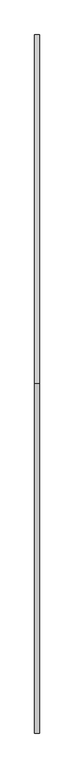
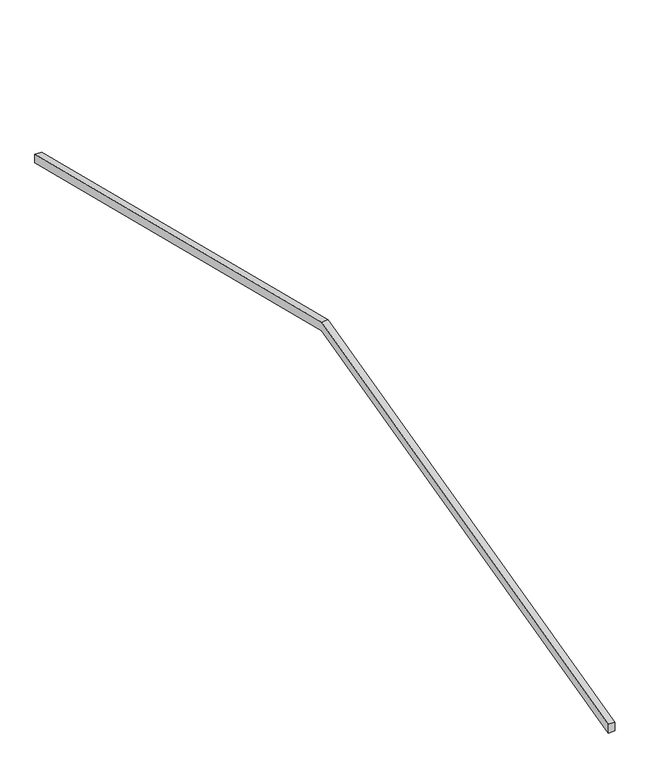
"""IFC4 building model written with IfcOpenShell, lengths in millimetres: proxy geometry, Modelos genéricos 175 : Modelos genéricos 174."""

from ifc_helpers import new_model, si_unit, frame, origin, place, context, project, spatial, polyline, outline, extrude, source, transform, mapped, element, save


def generic_models_2fe4f615(model_context):
    return source(origin(), model_context, "Body", "SweptSolid", [
        extrude(outline(polyline([(1948.6238165, 4392.1026725), (-2551.3761835, 3270.1266597), (-2551.3761835, 3352.5757501), (1948.6238165, 4474.5517629), (6448.6238165, 3352.5757501), (6448.6238165, 3270.1266597), (1948.6238165, 4392.1026725)])), frame((-12676.5527533, 0.0, 0.0), z_axis=(1.0, 0.0, 0.0), x_axis=(0.0, 1.0, 0.0)), (0.0, 0.0, 1.0), 60.0),
    ])


if __name__ == "__main__":
    model = new_model("IFC4")
    model_context = context("Model", 3, world=origin())
    ifc_project = project(units=[si_unit("LENGTHUNIT", "METRE", prefix="MILLI")], contexts=[model_context])
    site = spatial("IfcSite", under=ifc_project)
    building = spatial("IfcBuilding", under=site)
    placement = place(None, origin())
    generic_models_shape = generic_models_2fe4f615(model_context)
    element("IfcBuildingElementProxy", 1, Name="Modelos genéricos 175 : Modelos genéricos 174", ObjectType="Modelos genéricos 175 : Modelos genéricos 174", at=placement, inside=building, context=model_context, shape_type="MappedRepresentation", body=[
        mapped(generic_models_shape, transform((0.0, 0.0, 0.0), x_axis=(1.0, 0.0, 0.0), y_axis=(0.0, 1.0, 0.0), z_axis=(0.0, 0.0, 1.0))),
    ])
    save(model, "model.ifc")
